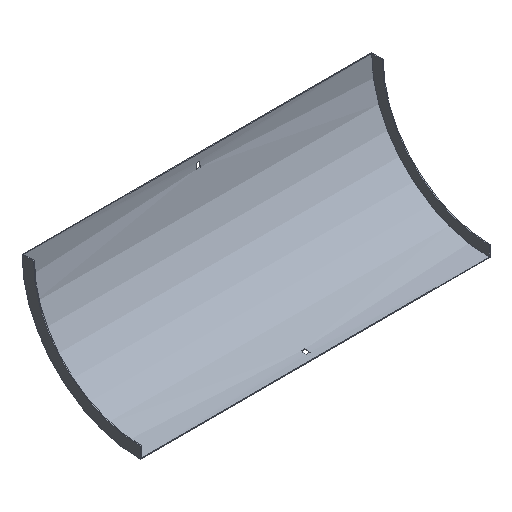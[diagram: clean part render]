
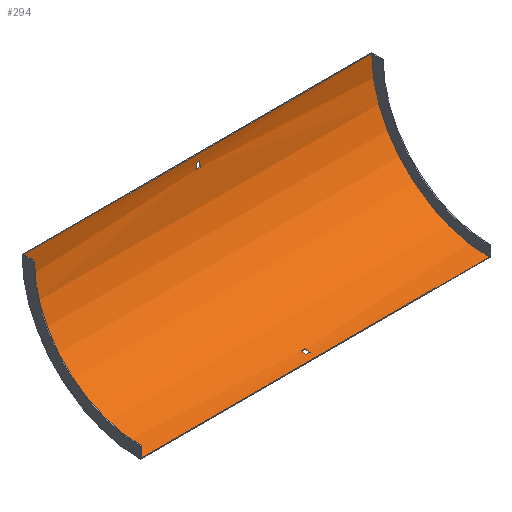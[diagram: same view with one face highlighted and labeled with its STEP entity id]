
A CAD part, isometric view. The second image highlights one B-rep face of the part: STEP entity #294.
In plain terms, the highlighted cylindrical face has radius 204 mm (diameter 408 mm), a partial arc.
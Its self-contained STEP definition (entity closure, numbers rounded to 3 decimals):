
#3 = VERTEX_POINT ( 'NONE', #545 ) ;
#6 = DIRECTION ( 'NONE',  ( 0., 0., 1. ) ) ;
#7 = CIRCLE ( 'NONE', #312, 204. ) ;
#21 = CARTESIAN_POINT ( 'NONE',  ( 302., -205.5, -204. ) ) ;
#24 = EDGE_CURVE ( 'NONE', #338, #367, #125, .T. ) ;
#26 = VERTEX_POINT ( 'NONE', #84 ) ;
#27 = LINE ( 'NONE', #173, #406 ) ;
#33 = CARTESIAN_POINT ( 'NONE',  ( 303.5, -205.5, 0. ) ) ;
#37 = DIRECTION ( 'NONE',  ( -1., 0., 0. ) ) ;
#41 = VECTOR ( 'NONE', #110, 1000. ) ;
#44 = EDGE_CURVE ( 'NONE', #64, #338, #425, .T. ) ;
#45 = EDGE_CURVE ( 'NONE', #3, #26, #219, .T. ) ;
#64 = VERTEX_POINT ( 'NONE', #595 ) ;
#71 = DIRECTION ( 'NONE',  ( -1., 0., 0. ) ) ;
#72 = ORIENTED_EDGE ( 'NONE', *, *, #536, .F. ) ;
#74 = ORIENTED_EDGE ( 'NONE', *, *, #342, .T. ) ;
#80 = FACE_BOUND ( 'NONE', #540, .T. ) ;
#84 = CARTESIAN_POINT ( 'NONE',  ( 3.25, -2.584, -21. ) ) ;
#87 = DIRECTION ( 'NONE',  ( 1., 0., 0. ) ) ;
#91 = VERTEX_POINT ( 'NONE', #21 ) ;
#94 = CARTESIAN_POINT ( 'NONE',  ( -3.25, -184.5, -202.916 ) ) ;
#98 = ORIENTED_EDGE ( 'NONE', *, *, #212, .T. ) ;
#106 = ORIENTED_EDGE ( 'NONE', *, *, #44, .T. ) ;
#110 = DIRECTION ( 'NONE',  ( -1., 0., 0. ) ) ;
#119 = FACE_BOUND ( 'NONE', #426, .T. ) ;
#125 = LINE ( 'NONE', #360, #244 ) ;
#144 = CARTESIAN_POINT ( 'NONE',  ( 302., -1.5, 0. ) ) ;
#145 = LINE ( 'NONE', #199, #346 ) ;
#149 = DIRECTION ( 'NONE',  ( 0., 0., -1. ) ) ;
#152 = CARTESIAN_POINT ( 'NONE',  ( 3.25, -205.5, 0. ) ) ;
#166 = DIRECTION ( 'NONE',  ( -1., 0., 0. ) ) ;
#173 = CARTESIAN_POINT ( 'NONE',  ( 303.5, -1.853, -12. ) ) ;
#177 = CARTESIAN_POINT ( 'NONE',  ( 303.5, -2.584, -21. ) ) ;
#185 = CARTESIAN_POINT ( 'NONE',  ( -302., -205.5, 0. ) ) ;
#192 = EDGE_CURVE ( 'NONE', #91, #570, #7, .T. ) ;
#194 = VERTEX_POINT ( 'NONE', #484 ) ;
#195 = CARTESIAN_POINT ( 'NONE',  ( 302., -205.5, -204. ) ) ;
#199 = CARTESIAN_POINT ( 'NONE',  ( 302., -1.5, 0. ) ) ;
#212 = EDGE_CURVE ( 'NONE', #570, #283, #145, .T. ) ;
#219 = LINE ( 'NONE', #177, #345 ) ;
#232 = CARTESIAN_POINT ( 'NONE',  ( 302., -205.5, 0. ) ) ;
#244 = VECTOR ( 'NONE', #403, 1000. ) ;
#250 = EDGE_CURVE ( 'NONE', #194, #3, #552, .T. ) ;
#256 = CARTESIAN_POINT ( 'NONE',  ( -302., -1.5, 0. ) ) ;
#263 = DIRECTION ( 'NONE',  ( 0., 0., 1. ) ) ;
#267 = ORIENTED_EDGE ( 'NONE', *, *, #24, .T. ) ;
#270 = AXIS2_PLACEMENT_3D ( 'NONE', #315, #87, #508 ) ;
#283 = VERTEX_POINT ( 'NONE', #256 ) ;
#289 = VERTEX_POINT ( 'NONE', #450 ) ;
#294 = ADVANCED_FACE ( 'NONE', ( #119, #454, #80 ), #356, .F. ) ;
#304 = VECTOR ( 'NONE', #497, 1000. ) ;
#305 = LINE ( 'NONE', #353, #304 ) ;
#310 = AXIS2_PLACEMENT_3D ( 'NONE', #457, #37, #263 ) ;
#312 = AXIS2_PLACEMENT_3D ( 'NONE', #232, #423, #6 ) ;
#315 = CARTESIAN_POINT ( 'NONE',  ( -3.25, -205.5, 0. ) ) ;
#320 = CIRCLE ( 'NONE', #449, 204. ) ;
#327 = DIRECTION ( 'NONE',  ( -1., 0., 0. ) ) ;
#338 = VERTEX_POINT ( 'NONE', #446 ) ;
#342 = EDGE_CURVE ( 'NONE', #469, #64, #305, .T. ) ;
#345 = VECTOR ( 'NONE', #507, 1000. ) ;
#346 = VECTOR ( 'NONE', #327, 1000. ) ;
#351 = DIRECTION ( 'NONE',  ( -1., 0., 0. ) ) ;
#353 = CARTESIAN_POINT ( 'NONE',  ( 303.5, -184.5, -202.916 ) ) ;
#356 = CYLINDRICAL_SURFACE ( 'NONE', #364, 204. ) ;
#360 = CARTESIAN_POINT ( 'NONE',  ( 303.5, -193.5, -203.647 ) ) ;
#364 = AXIS2_PLACEMENT_3D ( 'NONE', #33, #351, #590 ) ;
#367 = VERTEX_POINT ( 'NONE', #593 ) ;
#369 = EDGE_CURVE ( 'NONE', #289, #194, #27, .T. ) ;
#403 = DIRECTION ( 'NONE',  ( -1., 0., 0. ) ) ;
#406 = VECTOR ( 'NONE', #71, 1000. ) ;
#420 = CARTESIAN_POINT ( 'NONE',  ( -302., -205.5, -204. ) ) ;
#421 = ORIENTED_EDGE ( 'NONE', *, *, #369, .F. ) ;
#423 = DIRECTION ( 'NONE',  ( 1., 0., 0. ) ) ;
#425 = CIRCLE ( 'NONE', #310, 204. ) ;
#426 = EDGE_LOOP ( 'NONE', ( #604, #421, #465, #447 ) ) ;
#429 = EDGE_CURVE ( 'NONE', #367, #469, #553, .T. ) ;
#442 = CIRCLE ( 'NONE', #451, 204. ) ;
#444 = DIRECTION ( 'NONE',  ( 0., 0., 1. ) ) ;
#446 = CARTESIAN_POINT ( 'NONE',  ( 3.25, -193.5, -203.647 ) ) ;
#447 = ORIENTED_EDGE ( 'NONE', *, *, #45, .F. ) ;
#449 = AXIS2_PLACEMENT_3D ( 'NONE', #152, #568, #149 ) ;
#450 = CARTESIAN_POINT ( 'NONE',  ( 3.25, -1.853, -12. ) ) ;
#451 = AXIS2_PLACEMENT_3D ( 'NONE', #185, #503, #459 ) ;
#452 = ORIENTED_EDGE ( 'NONE', *, *, #493, .F. ) ;
#454 = FACE_OUTER_BOUND ( 'NONE', #524, .T. ) ;
#457 = CARTESIAN_POINT ( 'NONE',  ( 3.25, -205.5, 0. ) ) ;
#458 = ORIENTED_EDGE ( 'NONE', *, *, #429, .T. ) ;
#459 = DIRECTION ( 'NONE',  ( 0., 0., 1. ) ) ;
#465 = ORIENTED_EDGE ( 'NONE', *, *, #562, .F. ) ;
#469 = VERTEX_POINT ( 'NONE', #94 ) ;
#484 = CARTESIAN_POINT ( 'NONE',  ( -3.25, -1.853, -12. ) ) ;
#485 = VERTEX_POINT ( 'NONE', #420 ) ;
#492 = CARTESIAN_POINT ( 'NONE',  ( -3.25, -205.5, 0. ) ) ;
#493 = EDGE_CURVE ( 'NONE', #485, #283, #442, .T. ) ;
#497 = DIRECTION ( 'NONE',  ( 1., 0., 0. ) ) ;
#503 = DIRECTION ( 'NONE',  ( 1., 0., 0. ) ) ;
#507 = DIRECTION ( 'NONE',  ( 1., 0., 0. ) ) ;
#508 = DIRECTION ( 'NONE',  ( 0., 0., -1. ) ) ;
#522 = LINE ( 'NONE', #195, #41 ) ;
#524 = EDGE_LOOP ( 'NONE', ( #452, #72, #528, #98 ) ) ;
#528 = ORIENTED_EDGE ( 'NONE', *, *, #192, .T. ) ;
#536 = EDGE_CURVE ( 'NONE', #91, #485, #522, .T. ) ;
#540 = EDGE_LOOP ( 'NONE', ( #267, #458, #74, #106 ) ) ;
#544 = AXIS2_PLACEMENT_3D ( 'NONE', #492, #166, #444 ) ;
#545 = CARTESIAN_POINT ( 'NONE',  ( -3.25, -2.584, -21. ) ) ;
#552 = CIRCLE ( 'NONE', #544, 204. ) ;
#553 = CIRCLE ( 'NONE', #270, 204. ) ;
#562 = EDGE_CURVE ( 'NONE', #26, #289, #320, .T. ) ;
#568 = DIRECTION ( 'NONE',  ( 1., 0., 0. ) ) ;
#570 = VERTEX_POINT ( 'NONE', #144 ) ;
#590 = DIRECTION ( 'NONE',  ( 0., 0., 1. ) ) ;
#593 = CARTESIAN_POINT ( 'NONE',  ( -3.25, -193.5, -203.647 ) ) ;
#595 = CARTESIAN_POINT ( 'NONE',  ( 3.25, -184.5, -202.916 ) ) ;
#604 = ORIENTED_EDGE ( 'NONE', *, *, #250, .F. ) ;
